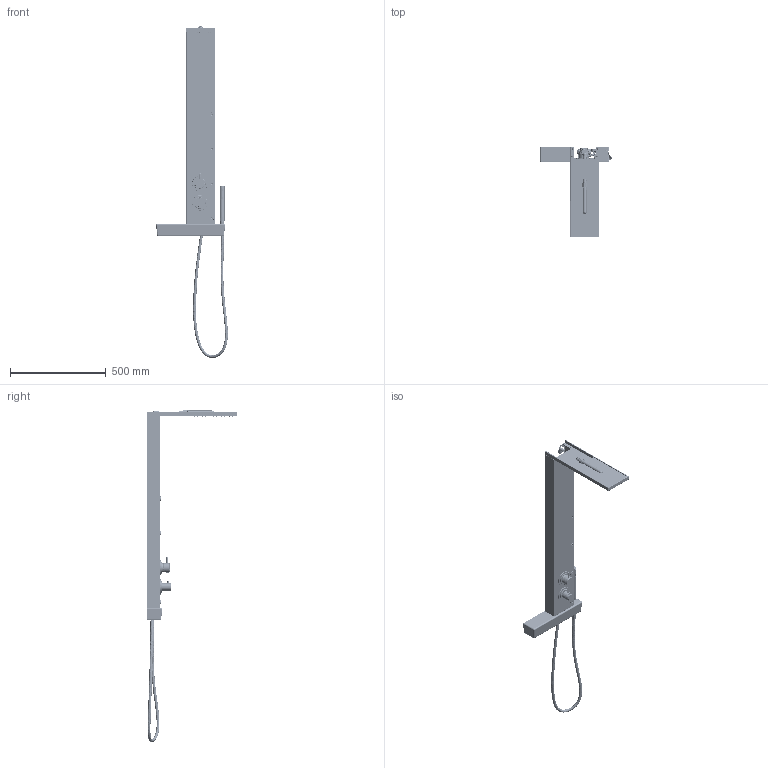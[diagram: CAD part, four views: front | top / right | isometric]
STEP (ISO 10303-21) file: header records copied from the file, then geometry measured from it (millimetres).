
FILE_DESCRIPTION(/* description */ ('COLONNA ACCIAIO'),/* implementation_level */ '2;1');
FILE_NAME(/* name */ 'W:\DAMIANO\Render America quattro\Colonna AXI.stp',/* time_stamp */ '2017-07-27T14:38:14+02:00',/* author */ ('moretti'),/* organization */ (''),/* preprocessor_version */ 'ST-DEVELOPER v16.1',/* originating_system */ 'Autodesk Inventor 2016',/* authorisation */ '');
FILE_SCHEMA (('AUTOMOTIVE_DESIGN { 1 0 10303 214 3 1 1 }'));
Products named in the file (67): 10000011974_Saldature; 10000011972; 10000005654_IPT_000; 10000011974; 10000011973; 10000012312; ISO 7093 A - ST 5 - 140 HV ; ISO 4762 - M5 x 25ISO; ISO 4762 - M5 x 16ISO; 10000011704; ISO 3601-1 - A 0100 G(1); 10000011702; 10000011703; 10000011740; 10000011705; 10000011701; 10000011706; 09_167_(3); 09_167_(3)_1; 47H0100000; 47H0200000; 47H0500000; 81D2000000; 81E3000000; 81I2000000; 81I2200000; 82C0100000; 82O9001000; 88L4120000; 88L4130000; 88L4390000; 88L4400000; 88L4410000; 88L4420000; 89O010P000; 89O0200000; 89V2500000 PER ASSIEME; 89V2510000 PER ASSIEME; 82M2600000; 81D9101000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
Assembly tree (96 placements, depth 5):
  10000012331
    10000011974
      10000011974_Saldature
      10000011972
      10000005654_IPT_000  x8
    10000011973
    10000012312
    ISO 7093 A - ST 5 - 140 HV   x8
    ISO 4762 - M5 x 25ISO  x4
    ISO 4762 - M5 x 16ISO  x4
    10000011705  x3
      10000011704
      ISO 3601-1 - A 0100 G(1)
      10000011702
      10000011703
      10000011740
    10000011706
      10000011704
      10000011701
      10000011703
      10000011740
    10000011707
      10000011712
        09_167_(3)_1
          09_167_(3)
        81D9101000
          47H0100000
          47H0200000
          47H0500000
          81D2000000
          81E3000000
          81I2000000
          81I2200000
          82C0100000
          82O9001000
          88L4120000
          88L4130000
          88L4390000  x2
          88L4400000
          88L4410000
          88L4420000
          89O010P000
          89O0200000
          89V2500000 PER ASSIEME
          89V2510000 PER ASSIEME
          82M2600000  x2
        07_121_(5)
        88L4710000_OR 53,7 X 1,78  X SERIE 60-70
        09_373_MAN. TERMOSTATICA
        09_374_ LIMITATORE TEMP TERMOSTATTICO
        09_375_COPERCHIO MAN TERMOSTATICA
        82G0150000
      10000005838_IPT_000
      10000005840_IPT_000
      10000005842_IPT_000
      10000005844_IPT_000
      10000005845_IPT_000
      10000011714
      10000005841_IPT_000
      10000011715
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Bounding box: 373.5 x 470 x 1729.43 mm (x, y, z)
Volume: 2231945 mm3; surface area: 1387826.8 mm2
Topology: 101 solids, 102 shells, 7034 faces, 18325 edges, 11884 vertices
Faces by surface type: plane 3719, cylinder 2413, bspline 475, cone 180, torus 165, sphere 82
Full cylindrical faces by diameter (mm): 1.3 x16, 2 x40, 2.5 x4, 3.242 x3, 3.3 x1, 3.6 x1, 3.7 x8, 4 x6, 4.134 x8, 4.48 x1, 4.5 x1, 4.74 x1, 4.917 x1, 5 x10, 5.3 x8, 5.473 x3, 5.5 x4, 5.9 x1, 6 x12, 6.4 x1, 6.5 x1, 6.6 x1, 6.917 x1, 7.1 x8, 7.2 x1, 7.4 x2, 8 x6, 8.5 x8, 8.6 x9, 9 x7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
Entity records: 261996 total; most frequent: CARTESIAN_POINT 111112, ORIENTED_EDGE 31206, DIRECTION 29182, EDGE_CURVE 15602, VERTEX_POINT 10475, AXIS2_PLACEMENT_3D 10257, LINE 8668, VECTOR 8668
